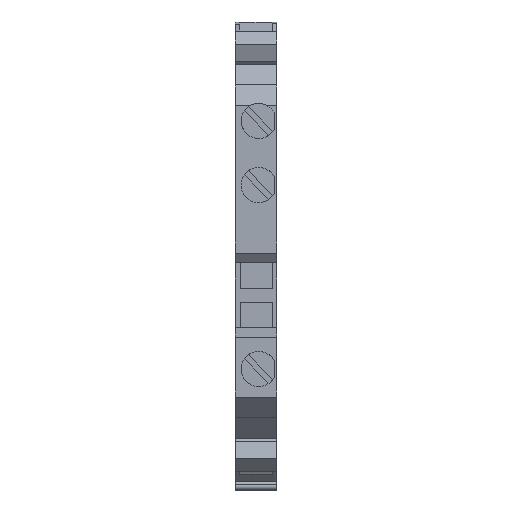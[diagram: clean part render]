
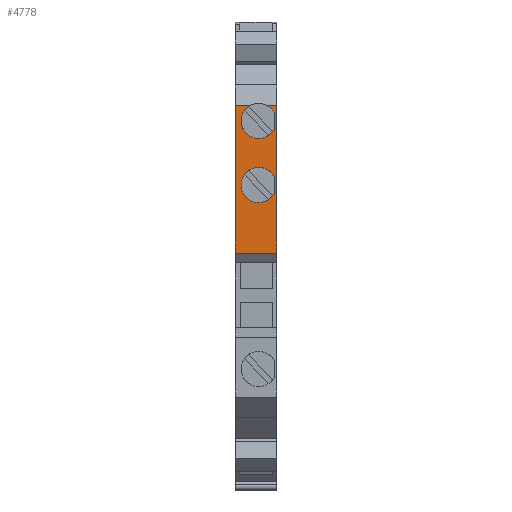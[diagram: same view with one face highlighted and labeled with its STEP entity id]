
A CAD part, top view. The second image highlights one B-rep face of the part: STEP entity #4778.
In plain terms, the highlighted planar face has unit normal (0, 0, 1).
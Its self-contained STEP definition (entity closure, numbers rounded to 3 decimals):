
#696=CARTESIAN_POINT('',(5.15,47.4,46.85));
#697=VERTEX_POINT('',#696);
#704=CARTESIAN_POINT('',(5.15,29.2,46.85));
#705=VERTEX_POINT('',#704);
#706=CARTESIAN_POINT('',(5.15,29.2,46.85));
#707=DIRECTION('',(0.,1.,-0.));
#708=VECTOR('',#707,18.2);
#709=LINE('',#706,#708);
#710=EDGE_CURVE('',#705,#697,#709,.T.);
#969=CARTESIAN_POINT('',(0.,29.2,46.85));
#970=VERTEX_POINT('',#969);
#977=CARTESIAN_POINT('',(0.,47.4,46.85));
#978=VERTEX_POINT('',#977);
#979=CARTESIAN_POINT('',(0.,29.2,46.85));
#980=DIRECTION('',(0.,1.,-0.));
#981=VECTOR('',#980,18.2);
#982=LINE('',#979,#981);
#983=EDGE_CURVE('',#970,#978,#982,.T.);
#2413=CARTESIAN_POINT('',(1.798,47.4,46.85));
#2414=VERTEX_POINT('',#2413);
#2415=CARTESIAN_POINT('',(0.,47.4,46.85));
#2416=DIRECTION('',(1.,-0.,-0.));
#2417=VECTOR('',#2416,1.798);
#2418=LINE('',#2415,#2417);
#2419=EDGE_CURVE('',#978,#2414,#2418,.T.);
#2421=CARTESIAN_POINT('',(4.002,47.4,46.85));
#2422=VERTEX_POINT('',#2421);
#2429=CARTESIAN_POINT('',(5.15,47.4,46.85));
#2430=DIRECTION('',(-1.,0.,0.));
#2431=VECTOR('',#2430,1.148);
#2432=LINE('',#2429,#2431);
#2433=EDGE_CURVE('',#697,#2422,#2432,.T.);
#4533=CARTESIAN_POINT('',(2.9,43.35,46.85));
#4534=VERTEX_POINT('',#4533);
#4560=CARTESIAN_POINT('',(4.8,46.584,46.85));
#4561=VERTEX_POINT('',#4560);
#4568=CARTESIAN_POINT('',(2.9,45.525,46.85));
#4569=DIRECTION('',(-0.,-0.,-1.));
#4570=DIRECTION('',(0.,1.,-0.));
#4571=AXIS2_PLACEMENT_3D('',#4568,#4569,#4570);
#4572=CIRCLE('',#4571,2.175);
#4573=EDGE_CURVE('',#2422,#4561,#4572,.T.);
#4576=CARTESIAN_POINT('',(2.9,45.525,46.85));
#4577=DIRECTION('',(-0.,-0.,-1.));
#4578=DIRECTION('',(0.,1.,-0.));
#4579=AXIS2_PLACEMENT_3D('',#4576,#4577,#4578);
#4580=CIRCLE('',#4579,2.175);
#4581=EDGE_CURVE('',#4534,#2414,#4580,.T.);
#4598=CARTESIAN_POINT('',(5.15,29.2,46.85));
#4599=DIRECTION('',(-1.,0.,0.));
#4600=VECTOR('',#4599,5.15);
#4601=LINE('',#4598,#4600);
#4602=EDGE_CURVE('',#705,#970,#4601,.T.);
#4721=CARTESIAN_POINT('',(0.,29.55,46.85));
#4722=DIRECTION('',(0.,0.,1.));
#4723=DIRECTION('',(-0.,-1.,0.));
#4724=AXIS2_PLACEMENT_3D('',#4721,#4722,#4723);
#4725=PLANE('',#4724);
#4726=CARTESIAN_POINT('',(4.8,38.659,46.85));
#4727=VERTEX_POINT('',#4726);
#4728=CARTESIAN_POINT('',(4.8,36.541,46.85));
#4729=VERTEX_POINT('',#4728);
#4730=CARTESIAN_POINT('',(4.8,38.659,46.85));
#4731=DIRECTION('',(-0.,-1.,0.));
#4732=VECTOR('',#4731,2.117);
#4733=LINE('',#4730,#4732);
#4734=EDGE_CURVE('',#4727,#4729,#4733,.T.);
#4735=ORIENTED_EDGE('',*,*,#4734,.T.);
#4736=CARTESIAN_POINT('',(2.9,35.425,46.85));
#4737=VERTEX_POINT('',#4736);
#4738=CARTESIAN_POINT('',(2.9,37.6,46.85));
#4739=DIRECTION('',(-0.,-0.,-1.));
#4740=DIRECTION('',(0.,1.,-0.));
#4741=AXIS2_PLACEMENT_3D('',#4738,#4739,#4740);
#4742=CIRCLE('',#4741,2.175);
#4743=EDGE_CURVE('',#4729,#4737,#4742,.T.);
#4744=ORIENTED_EDGE('',*,*,#4743,.T.);
#4745=CARTESIAN_POINT('',(2.9,37.6,46.85));
#4746=DIRECTION('',(-0.,-0.,-1.));
#4747=DIRECTION('',(0.,1.,-0.));
#4748=AXIS2_PLACEMENT_3D('',#4745,#4746,#4747);
#4749=CIRCLE('',#4748,2.175);
#4750=EDGE_CURVE('',#4737,#4727,#4749,.T.);
#4751=ORIENTED_EDGE('',*,*,#4750,.T.);
#4752=EDGE_LOOP('',(#4735,#4744,#4751));
#4753=FACE_BOUND('',#4752,.T.);
#4754=CARTESIAN_POINT('',(4.8,44.466,46.85));
#4755=VERTEX_POINT('',#4754);
#4756=CARTESIAN_POINT('',(4.8,46.584,46.85));
#4757=DIRECTION('',(-0.,-1.,0.));
#4758=VECTOR('',#4757,2.117);
#4759=LINE('',#4756,#4758);
#4760=EDGE_CURVE('',#4561,#4755,#4759,.T.);
#4761=ORIENTED_EDGE('',*,*,#4760,.T.);
#4762=CARTESIAN_POINT('',(2.9,45.525,46.85));
#4763=DIRECTION('',(-0.,-0.,-1.));
#4764=DIRECTION('',(0.,1.,-0.));
#4765=AXIS2_PLACEMENT_3D('',#4762,#4763,#4764);
#4766=CIRCLE('',#4765,2.175);
#4767=EDGE_CURVE('',#4755,#4534,#4766,.T.);
#4768=ORIENTED_EDGE('',*,*,#4767,.T.);
#4769=ORIENTED_EDGE('',*,*,#4581,.T.);
#4770=ORIENTED_EDGE('',*,*,#2419,.F.);
#4771=ORIENTED_EDGE('',*,*,#983,.F.);
#4772=ORIENTED_EDGE('',*,*,#4602,.F.);
#4773=ORIENTED_EDGE('',*,*,#710,.T.);
#4774=ORIENTED_EDGE('',*,*,#2433,.T.);
#4775=ORIENTED_EDGE('',*,*,#4573,.T.);
#4776=EDGE_LOOP('',(#4761,#4768,#4769,#4770,#4771,#4772,#4773,#4774,#4775));
#4777=FACE_BOUND('',#4776,.T.);
#4778=ADVANCED_FACE('',(#4753,#4777),#4725,.T.);
